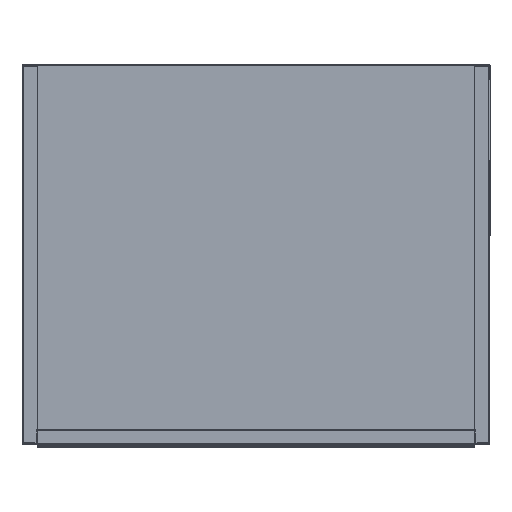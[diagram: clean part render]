
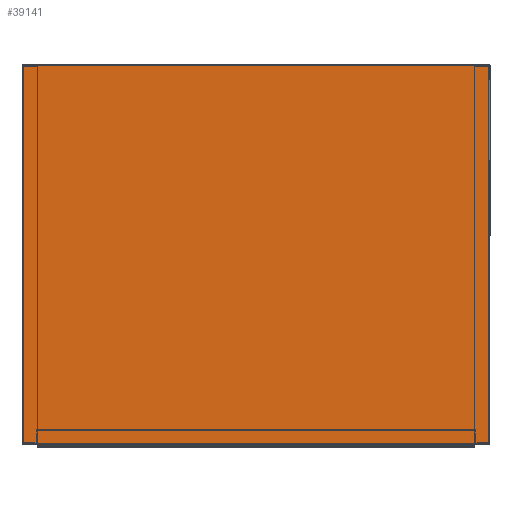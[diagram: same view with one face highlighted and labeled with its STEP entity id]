
A CAD part, top view. The second image highlights one B-rep face of the part: STEP entity #39141.
In plain terms, the highlighted planar face has unit normal (0, 0, 1).
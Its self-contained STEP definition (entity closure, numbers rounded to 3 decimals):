
#7281=ORIENTED_EDGE('',*,*,#15304,.F.);
#7282=ORIENTED_EDGE('',*,*,#15313,.T.);
#7283=ORIENTED_EDGE('',*,*,#15306,.F.);
#7284=ORIENTED_EDGE('',*,*,#15314,.T.);
#7285=ORIENTED_EDGE('',*,*,#15312,.F.);
#7286=ORIENTED_EDGE('',*,*,#15315,.T.);
#7287=ORIENTED_EDGE('',*,*,#15298,.F.);
#7288=ORIENTED_EDGE('',*,*,#15316,.T.);
#15298=EDGE_CURVE('',#19820,#19821,#23748,.T.);
#15304=EDGE_CURVE('',#19826,#19824,#23754,.T.);
#15306=EDGE_CURVE('',#19828,#19829,#23756,.T.);
#15312=EDGE_CURVE('',#19834,#19832,#23762,.T.);
#15313=EDGE_CURVE('',#19826,#19829,#23763,.T.);
#15314=EDGE_CURVE('',#19828,#19832,#23764,.T.);
#15315=EDGE_CURVE('',#19834,#19821,#23765,.T.);
#15316=EDGE_CURVE('',#19820,#19824,#23766,.T.);
#19820=VERTEX_POINT('',#62180);
#19821=VERTEX_POINT('',#62182);
#19824=VERTEX_POINT('',#62189);
#19826=VERTEX_POINT('',#62193);
#19828=VERTEX_POINT('',#62198);
#19829=VERTEX_POINT('',#62200);
#19832=VERTEX_POINT('',#62207);
#19834=VERTEX_POINT('',#62211);
#23748=LINE('',#62181,#28220);
#23754=LINE('',#62194,#28226);
#23756=LINE('',#62199,#28228);
#23762=LINE('',#62212,#28234);
#23763=LINE('',#62214,#28235);
#23764=LINE('',#62215,#28236);
#23765=LINE('',#62216,#28237);
#23766=LINE('',#62217,#28238);
#28220=VECTOR('',#50576,1000.);
#28226=VECTOR('',#50584,1000.);
#28228=VECTOR('',#50588,1000.);
#28234=VECTOR('',#50596,1000.);
#28235=VECTOR('',#50599,1000.);
#28236=VECTOR('',#50600,1000.);
#28237=VECTOR('',#50601,1000.);
#28238=VECTOR('',#50602,1000.);
#32164=EDGE_LOOP('',(#7281,#7282,#7283,#7284,#7285,#7286,#7287,#7288));
#35216=FACE_BOUND('',#32164,.T.);
#37275=PLANE('',#43929);
#39141=ADVANCED_FACE('',(#35216),#37275,.T.);
#43929=AXIS2_PLACEMENT_3D('',#62213,#50597,#50598);
#50576=DIRECTION('',(0.,1.,0.));
#50584=DIRECTION('',(0.,1.,0.));
#50588=DIRECTION('',(0.,-1.,0.));
#50596=DIRECTION('',(0.,-1.,0.));
#50597=DIRECTION('',(0.,0.,1.));
#50598=DIRECTION('',(1.,0.,0.));
#50599=DIRECTION('',(1.,0.,0.));
#50600=DIRECTION('',(0.,1.,0.));
#50601=DIRECTION('',(-1.,0.,0.));
#50602=DIRECTION('',(0.,-1.,0.));
#62180=CARTESIAN_POINT('',(-273.148,336.896,0.));
#62181=CARTESIAN_POINT('',(-273.148,-336.898,0.));
#62182=CARTESIAN_POINT('',(-273.148,336.898,0.));
#62189=CARTESIAN_POINT('',(-273.148,-336.896,0.));
#62193=CARTESIAN_POINT('',(-273.148,-336.898,0.));
#62194=CARTESIAN_POINT('',(-273.148,-336.898,0.));
#62198=CARTESIAN_POINT('',(273.148,-336.896,0.));
#62199=CARTESIAN_POINT('',(273.148,336.898,0.));
#62200=CARTESIAN_POINT('',(273.148,-336.898,0.));
#62207=CARTESIAN_POINT('',(273.148,336.896,0.));
#62211=CARTESIAN_POINT('',(273.148,336.898,0.));
#62212=CARTESIAN_POINT('',(273.148,336.898,0.));
#62213=CARTESIAN_POINT('',(-273.15,-336.9,0.));
#62214=CARTESIAN_POINT('',(-273.15,-336.898,0.));
#62215=CARTESIAN_POINT('',(273.148,-336.896,0.));
#62216=CARTESIAN_POINT('',(273.15,336.898,0.));
#62217=CARTESIAN_POINT('',(-273.148,336.896,0.));
